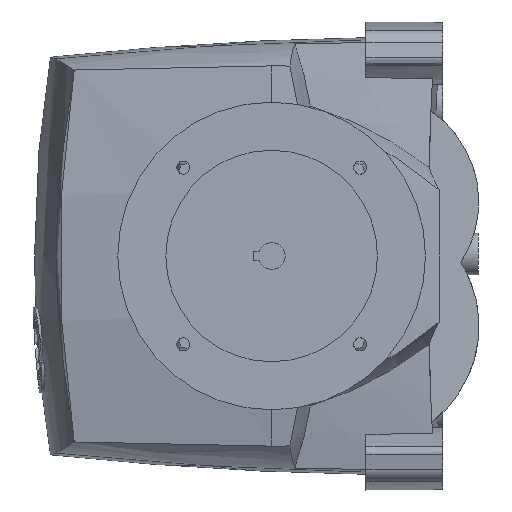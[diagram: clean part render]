
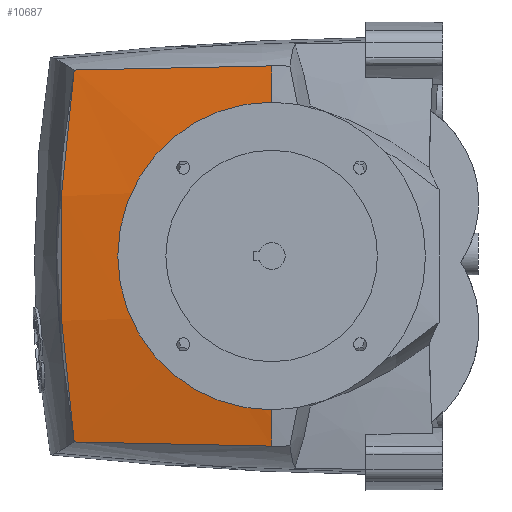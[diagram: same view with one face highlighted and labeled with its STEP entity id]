
A CAD part, left-side view. The second image highlights one B-rep face of the part: STEP entity #10687.
In plain terms, the highlighted free-form (B-spline) face has degree [3, 3] with [4, 4] control points.
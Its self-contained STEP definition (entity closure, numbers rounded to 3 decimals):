
#552=CARTESIAN_POINT('',(-78.326,215.677,-96.675));
#553=CARTESIAN_POINT('',(-79.846,217.513,-84.291));
#554=CARTESIAN_POINT('',(-82.319,220.53,-59.261));
#555=CARTESIAN_POINT('',(-84.213,223.214,-20.913));
#556=CARTESIAN_POINT('',(-84.288,223.332,17.989));
#557=CARTESIAN_POINT('',(-82.486,220.743,57.273));
#558=CARTESIAN_POINT('',(-79.939,217.625,83.532));
#559=CARTESIAN_POINT('',(-78.326,215.677,96.675));
#622=CARTESIAN_POINT('',(589.642,113.006,
0.));
#623=DIRECTION('',(0.,1.,0.));
#624=DIRECTION('',(-0.99,0.,-0.144));
#625=AXIS2_PLACEMENT_3D('',#622,#623,#624);
#627=CARTESIAN_POINT('',(-78.326,215.677,-96.675));
#628=CARTESIAN_POINT('',(-79.935,204.267,-97.271));
#629=CARTESIAN_POINT('',(-83.043,181.448,-98.215));
#630=CARTESIAN_POINT('',(-87.373,147.214,-98.936));
#631=CARTESIAN_POINT('',(-90.037,124.406,-98.942));
#632=CARTESIAN_POINT('',(-91.314,113.006,-98.834));
#634=CARTESIAN_POINT('',(-91.314,113.006,98.833));
#635=CARTESIAN_POINT('',(-90.038,124.406,98.941));
#636=CARTESIAN_POINT('',(-87.372,147.214,98.937));
#637=CARTESIAN_POINT('',(-83.043,181.448,98.216));
#638=CARTESIAN_POINT('',(-79.935,204.267,97.271));
#639=CARTESIAN_POINT('',(-78.326,215.677,96.675));
#641=CARTESIAN_POINT('',(589.642,113.006,
0.));
#642=DIRECTION('',(0.,1.,0.));
#643=DIRECTION('',(-0.997,0.,0.081));
#644=AXIS2_PLACEMENT_3D('',#641,#642,#643);
#658=CARTESIAN_POINT('',(-90.566,163.6,50.6));
#659=CARTESIAN_POINT('',(-90.926,165.596,42.327));
#660=CARTESIAN_POINT('',(-91.487,168.604,25.547));
#661=CARTESIAN_POINT('',(-91.759,170.119,0.));
#662=CARTESIAN_POINT('',(-91.486,168.604,-25.547));
#663=CARTESIAN_POINT('',(-90.925,165.596,-42.327));
#664=CARTESIAN_POINT('',(-90.566,163.6,-50.6));
#1058=CARTESIAN_POINT('',(-90.566,163.6,
-50.6));
#1059=CARTESIAN_POINT('',(-91.18,158.075,
-51.865));
#1060=CARTESIAN_POINT('',(-92.413,146.925,
-53.945));
#1061=CARTESIAN_POINT('',(-94.293,130.002,
-55.688));
#1062=CARTESIAN_POINT('',(-95.55,118.674,
-55.93));
#1063=CARTESIAN_POINT('',(-96.183,112.995,
-55.818));
#1089=CARTESIAN_POINT('',(-96.183,112.991,55.818));
#1090=CARTESIAN_POINT('',(-95.55,118.676,55.931));
#1091=CARTESIAN_POINT('',(-94.294,130.001,55.688));
#1092=CARTESIAN_POINT('',(-92.413,146.926,53.945));
#1093=CARTESIAN_POINT('',(-91.181,158.075,51.865));
#1094=CARTESIAN_POINT('',(-90.566,163.6,50.6));
#8392=VERTEX_POINT('',#552);
#8393=VERTEX_POINT('',#559);
#8749=VERTEX_POINT('',#1089);
#8750=VERTEX_POINT('',#1094);
#8765=VERTEX_POINT('',#1058);
#8766=VERTEX_POINT('',#1063);
#8793=CARTESIAN_POINT('',(-91.315,113.006,98.833));
#8794=VERTEX_POINT('',#8793);
#8795=VERTEX_POINT('',#632);
#10654=CARTESIAN_POINT('',(-76.188,225.431,
101.199));
#10655=CARTESIAN_POINT('',(-81.863,187.324,
102.061));
#10656=CARTESIAN_POINT('',(-86.76,149.107,
102.806));
#10657=CARTESIAN_POINT('',(-90.875,110.796,
103.431));
#10658=CARTESIAN_POINT('',(-86.403,225.431,
33.99));
#10659=CARTESIAN_POINT('',(-92.165,187.324,
34.28));
#10660=CARTESIAN_POINT('',(-97.137,149.107,
34.53));
#10661=CARTESIAN_POINT('',(-101.316,110.796,
34.74));
#10662=CARTESIAN_POINT('',(-86.403,225.431,
-33.99));
#10663=CARTESIAN_POINT('',(-92.165,187.324,
-34.28));
#10664=CARTESIAN_POINT('',(-97.137,149.107,
-34.53));
#10665=CARTESIAN_POINT('',(-101.316,110.796,
-34.74));
#10666=CARTESIAN_POINT('',(-76.188,225.431,
-101.198));
#10667=CARTESIAN_POINT('',(-81.863,187.324,
-102.061));
#10668=CARTESIAN_POINT('',(-86.76,149.107,
-102.805));
#10669=CARTESIAN_POINT('',(-90.875,110.796,
-103.431));
#10670=(BOUNDED_SURFACE()B_SPLINE_SURFACE(3,3,((#10654,#10655,#10656,#10657),(
#10658,#10659,#10660,#10661),(#10662,#10663,#10664,#10665),(#10666,#10667,
#10668,#10669)),.UNSPECIFIED.,.F.,.F.,.F.)B_SPLINE_SURFACE_WITH_KNOTS((4,4),(4,
4),(0.,1.),(0.,1.),.UNSPECIFIED.)GEOMETRIC_REPRESENTATION_ITEM()RATIONAL_B_SPLINE_SURFACE(((1.006,1.006,1.006,
1.006),(0.998,0.998,0.998,
0.998),(0.998,0.998,0.998,
0.998),(1.006,1.006,1.006,
1.006)))REPRESENTATION_ITEM('')SURFACE());
#10672=ORIENTED_EDGE('',*,*,#10671,.T.);
#10674=ORIENTED_EDGE('',*,*,#10673,.T.);
#10676=ORIENTED_EDGE('',*,*,#10675,.F.);
#10678=ORIENTED_EDGE('',*,*,#10677,.F.);
#10679=ORIENTED_EDGE('',*,*,#10640,.T.);
#10680=ORIENTED_EDGE('',*,*,#9893,.F.);
#10682=ORIENTED_EDGE('',*,*,#10681,.F.);
#10684=ORIENTED_EDGE('',*,*,#10683,.T.);
#10685=EDGE_LOOP('',(#10672,#10674,#10676,#10678,#10679,#10680,#10682,#10684));
#10686=FACE_OUTER_BOUND('',#10685,.F.);
#10687=ADVANCED_FACE('',(#10686),#10670,.T.);
#560=B_SPLINE_CURVE_WITH_KNOTS('',3,(#552,#553,#554,#555,#556,#557,#558,#559),
.UNSPECIFIED.,.F.,.F.,(4,1,1,1,1,4),(0.,0.2,0.4,0.6,0.8,1.),
.UNSPECIFIED.);
#626=CIRCLE('',#625,688.091);
#633=B_SPLINE_CURVE_WITH_KNOTS('',3,(#627,#628,#629,#630,#631,#632),
.UNSPECIFIED.,.F.,.F.,(4,1,1,4),(0.,0.333,0.667,1.),
.UNSPECIFIED.);
#640=B_SPLINE_CURVE_WITH_KNOTS('',3,(#634,#635,#636,#637,#638,#639),
.UNSPECIFIED.,.F.,.F.,(4,1,1,4),(0.,0.333,0.667,1.),
.UNSPECIFIED.);
#645=CIRCLE('',#644,688.091);
#665=B_SPLINE_CURVE_WITH_KNOTS('',3,(#658,#659,#660,#661,#662,#663,#664),
.UNSPECIFIED.,.F.,.F.,(4,1,1,1,4),(0.,0.25,0.5,0.75,1.),
.UNSPECIFIED.);
#1064=B_SPLINE_CURVE_WITH_KNOTS('',3,(#1058,#1059,#1060,#1061,#1062,#1063),
.UNSPECIFIED.,.F.,.F.,(4,1,1,4),(0.,0.333,0.667,1.),
.UNSPECIFIED.);
#1095=B_SPLINE_CURVE_WITH_KNOTS('',3,(#1089,#1090,#1091,#1092,#1093,#1094),
.UNSPECIFIED.,.F.,.F.,(4,1,1,4),(0.,0.333,0.667,1.),
.UNSPECIFIED.);
#9893=EDGE_CURVE('',#8794,#8393,#640,.T.);
#10640=EDGE_CURVE('',#8392,#8393,#560,.T.);
#10671=EDGE_CURVE('',#8750,#8765,#665,.T.);
#10673=EDGE_CURVE('',#8765,#8766,#1064,.T.);
#10675=EDGE_CURVE('',#8795,#8766,#626,.T.);
#10677=EDGE_CURVE('',#8392,#8795,#633,.T.);
#10681=EDGE_CURVE('',#8749,#8794,#645,.T.);
#10683=EDGE_CURVE('',#8749,#8750,#1095,.T.);
